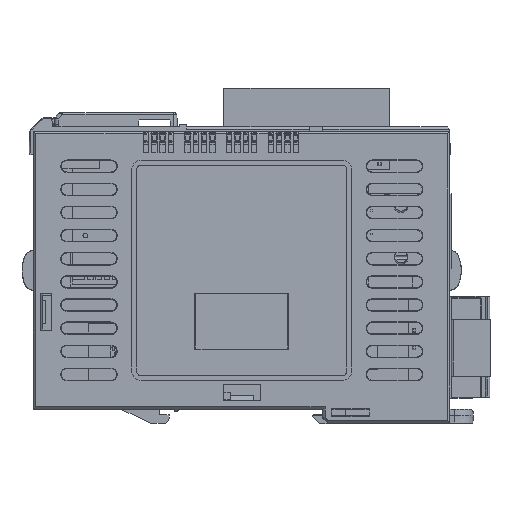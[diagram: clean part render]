
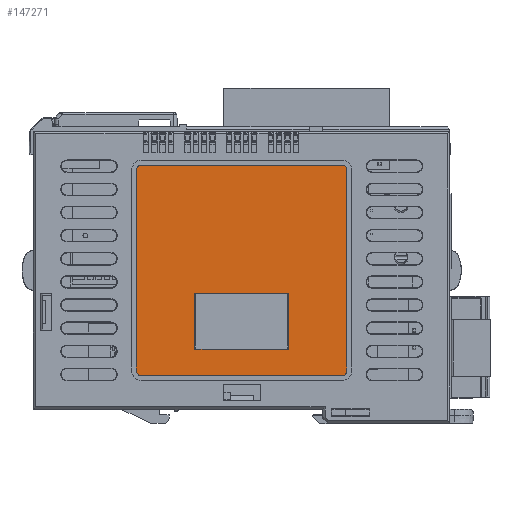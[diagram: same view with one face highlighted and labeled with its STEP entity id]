
A CAD part, left-side view. The second image highlights one B-rep face of the part: STEP entity #147271.
In plain terms, the highlighted planar face has unit normal (-1, 0, 0).
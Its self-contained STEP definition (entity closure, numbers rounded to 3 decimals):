
#2202 = CARTESIAN_POINT ( 'NONE',  ( -44.477, 27.844, 33.2 ) ) ;
#15868 = AXIS2_PLACEMENT_3D ( 'NONE', #16899, #33570, #189281 ) ;
#16108 = ORIENTED_EDGE ( 'NONE', *, *, #145214, .F. ) ;
#16697 = DIRECTION ( 'NONE',  ( 0., 0., 1. ) ) ;
#16899 = CARTESIAN_POINT ( 'NONE',  ( -44.477, -16.656, 54.95 ) ) ;
#17249 = DIRECTION ( 'NONE',  ( 0., -1., 0. ) ) ;
#18335 = CARTESIAN_POINT ( 'NONE',  ( -44.477, 26.844, 55.95 ) ) ;
#19932 = FACE_OUTER_BOUND ( 'NONE', #80409, .T. ) ;
#20312 = ORIENTED_EDGE ( 'NONE', *, *, #141588, .F. ) ;
#22767 = CARTESIAN_POINT ( 'NONE',  ( -44.477, -17.656, 33.2 ) ) ;
#25304 = CARTESIAN_POINT ( 'NONE',  ( -44.477, 5.094, 28.3 ) ) ;
#27617 = EDGE_CURVE ( 'NONE', #170722, #51414, #175181, .T. ) ;
#31763 = DIRECTION ( 'NONE',  ( 0., 0., 1. ) ) ;
#33570 = DIRECTION ( 'NONE',  ( 1., 0., 0. ) ) ;
#36616 = FACE_BOUND ( 'NONE', #75417, .T. ) ;
#44663 = CARTESIAN_POINT ( 'NONE',  ( -44.477, -17.656, 11.45 ) ) ;
#48022 = CIRCLE ( 'NONE', #65809, 1. ) ;
#49347 = CARTESIAN_POINT ( 'NONE',  ( -44.477, 15.194, 16.1 ) ) ;
#49861 = VERTEX_POINT ( 'NONE', #128373 ) ;
#51414 = VERTEX_POINT ( 'NONE', #44663 ) ;
#55858 = CARTESIAN_POINT ( 'NONE',  ( -44.477, 27.844, 11.45 ) ) ;
#56363 = ORIENTED_EDGE ( 'NONE', *, *, #99935, .F. ) ;
#61693 = ORIENTED_EDGE ( 'NONE', *, *, #147564, .F. ) ;
#65809 = AXIS2_PLACEMENT_3D ( 'NONE', #81823, #203069, #31763 ) ;
#67517 = LINE ( 'NONE', #187671, #206684 ) ;
#67843 = LINE ( 'NONE', #136820, #181679 ) ;
#69952 = VECTOR ( 'NONE', #17249, 1000. ) ;
#73284 = DIRECTION ( 'NONE',  ( 0., 1., 0. ) ) ;
#75417 = EDGE_LOOP ( 'NONE', ( #56363, #20312, #213150, #153654 ) ) ;
#76926 = VERTEX_POINT ( 'NONE', #215318 ) ;
#80052 = EDGE_CURVE ( 'NONE', #198487, #177893, #188503, .T. ) ;
#80409 = EDGE_LOOP ( 'NONE', ( #212642, #91370, #16108, #161358, #61693, #128301, #211087, #83606 ) ) ;
#81823 = CARTESIAN_POINT ( 'NONE',  ( -44.477, -16.656, 11.45 ) ) ;
#82539 = VERTEX_POINT ( 'NONE', #55858 ) ;
#82892 = CARTESIAN_POINT ( 'NONE',  ( -44.477, 5.094, 16.1 ) ) ;
#83606 = ORIENTED_EDGE ( 'NONE', *, *, #215967, .F. ) ;
#84490 = AXIS2_PLACEMENT_3D ( 'NONE', #93644, #141555, #192719 ) ;
#89485 = EDGE_CURVE ( 'NONE', #51414, #76926, #48022, .T. ) ;
#90705 = CIRCLE ( 'NONE', #158375, 1. ) ;
#90996 = DIRECTION ( 'NONE',  ( 0., 1., 0. ) ) ;
#91370 = ORIENTED_EDGE ( 'NONE', *, *, #27617, .F. ) ;
#92251 = VERTEX_POINT ( 'NONE', #164275 ) ;
#93644 = CARTESIAN_POINT ( 'NONE',  ( -44.477, 26.844, 11.45 ) ) ;
#99935 = EDGE_CURVE ( 'NONE', #140102, #198487, #177721, .T. ) ;
#103397 = DIRECTION ( 'NONE',  ( 1., 0., 0. ) ) ;
#110710 = EDGE_CURVE ( 'NONE', #82539, #92251, #174615, .T. ) ;
#112747 = DIRECTION ( 'NONE',  ( 0., 1., 0. ) ) ;
#116320 = LINE ( 'NONE', #82892, #69952 ) ;
#117363 = CARTESIAN_POINT ( 'NONE',  ( -44.477, 15.194, 33.2 ) ) ;
#118704 = CARTESIAN_POINT ( 'NONE',  ( -44.477, 15.194, 28.3 ) ) ;
#122008 = VECTOR ( 'NONE', #170716, 1000. ) ;
#123461 = DIRECTION ( 'NONE',  ( 0., 0., 1. ) ) ;
#128301 = ORIENTED_EDGE ( 'NONE', *, *, #110710, .F. ) ;
#128373 = CARTESIAN_POINT ( 'NONE',  ( -44.477, -5.006, 16.1 ) ) ;
#131043 = CARTESIAN_POINT ( 'NONE',  ( -44.477, 26.844, 54.95 ) ) ;
#134338 = DIRECTION ( 'NONE',  ( 0., 0., 1. ) ) ;
#135417 = DIRECTION ( 'NONE',  ( 0., -1., 0. ) ) ;
#136103 = CARTESIAN_POINT ( 'NONE',  ( -44.477, -17.656, 54.95 ) ) ;
#136770 = CARTESIAN_POINT ( 'NONE',  ( -44.477, 5.094, 33.2 ) ) ;
#136820 = CARTESIAN_POINT ( 'NONE',  ( -44.477, -5.006, 33.2 ) ) ;
#137883 = PLANE ( 'NONE',  #140896 ) ;
#140102 = VERTEX_POINT ( 'NONE', #208236 ) ;
#140896 = AXIS2_PLACEMENT_3D ( 'NONE', #136770, #103397, #73284 ) ;
#141555 = DIRECTION ( 'NONE',  ( 1., 0., 0. ) ) ;
#141588 = EDGE_CURVE ( 'NONE', #49861, #140102, #67843, .T. ) ;
#145214 = EDGE_CURVE ( 'NONE', #211523, #170722, #179308, .T. ) ;
#146111 = VECTOR ( 'NONE', #90996, 1000. ) ;
#147271 = ADVANCED_FACE ( 'NONE', ( #36616, #19932 ), #137883, .F. ) ;
#147564 = EDGE_CURVE ( 'NONE', #92251, #149181, #90705, .T. ) ;
#149181 = VERTEX_POINT ( 'NONE', #18335 ) ;
#152196 = VECTOR ( 'NONE', #123461, 1000. ) ;
#153654 = ORIENTED_EDGE ( 'NONE', *, *, #80052, .F. ) ;
#157533 = EDGE_CURVE ( 'NONE', #149181, #211523, #67517, .T. ) ;
#158375 = AXIS2_PLACEMENT_3D ( 'NONE', #131043, #216666, #134338 ) ;
#161358 = ORIENTED_EDGE ( 'NONE', *, *, #157533, .F. ) ;
#162840 = LINE ( 'NONE', #194039, #197353 ) ;
#164275 = CARTESIAN_POINT ( 'NONE',  ( -44.477, 27.844, 54.95 ) ) ;
#166383 = EDGE_CURVE ( 'NONE', #212024, #82539, #215994, .T. ) ;
#170716 = DIRECTION ( 'NONE',  ( 0., 0., -1. ) ) ;
#170722 = VERTEX_POINT ( 'NONE', #136103 ) ;
#174615 = LINE ( 'NONE', #2202, #152196 ) ;
#175181 = LINE ( 'NONE', #22767, #211440 ) ;
#176283 = DIRECTION ( 'NONE',  ( 0., 0., -1. ) ) ;
#177721 = LINE ( 'NONE', #25304, #146111 ) ;
#177893 = VERTEX_POINT ( 'NONE', #49347 ) ;
#179308 = CIRCLE ( 'NONE', #15868, 1. ) ;
#181679 = VECTOR ( 'NONE', #16697, 1000. ) ;
#182276 = CARTESIAN_POINT ( 'NONE',  ( -44.477, 26.844, 10.45 ) ) ;
#187671 = CARTESIAN_POINT ( 'NONE',  ( -44.477, 5.094, 55.95 ) ) ;
#188503 = LINE ( 'NONE', #117363, #122008 ) ;
#189281 = DIRECTION ( 'NONE',  ( 0., 0., 1. ) ) ;
#192719 = DIRECTION ( 'NONE',  ( 0., 0., 1. ) ) ;
#194039 = CARTESIAN_POINT ( 'NONE',  ( -44.477, 5.094, 10.45 ) ) ;
#197353 = VECTOR ( 'NONE', #112747, 1000. ) ;
#198487 = VERTEX_POINT ( 'NONE', #118704 ) ;
#203069 = DIRECTION ( 'NONE',  ( 1., 0., 0. ) ) ;
#206684 = VECTOR ( 'NONE', #135417, 1000. ) ;
#208236 = CARTESIAN_POINT ( 'NONE',  ( -44.477, -5.006, 28.3 ) ) ;
#211087 = ORIENTED_EDGE ( 'NONE', *, *, #166383, .F. ) ;
#211440 = VECTOR ( 'NONE', #176283, 1000. ) ;
#211523 = VERTEX_POINT ( 'NONE', #212678 ) ;
#212024 = VERTEX_POINT ( 'NONE', #182276 ) ;
#212642 = ORIENTED_EDGE ( 'NONE', *, *, #89485, .F. ) ;
#212678 = CARTESIAN_POINT ( 'NONE',  ( -44.477, -16.656, 55.95 ) ) ;
#213150 = ORIENTED_EDGE ( 'NONE', *, *, #219360, .F. ) ;
#215318 = CARTESIAN_POINT ( 'NONE',  ( -44.477, -16.656, 10.45 ) ) ;
#215967 = EDGE_CURVE ( 'NONE', #76926, #212024, #162840, .T. ) ;
#215994 = CIRCLE ( 'NONE', #84490, 1. ) ;
#216666 = DIRECTION ( 'NONE',  ( 1., 0., 0. ) ) ;
#219360 = EDGE_CURVE ( 'NONE', #177893, #49861, #116320, .T. ) ;
